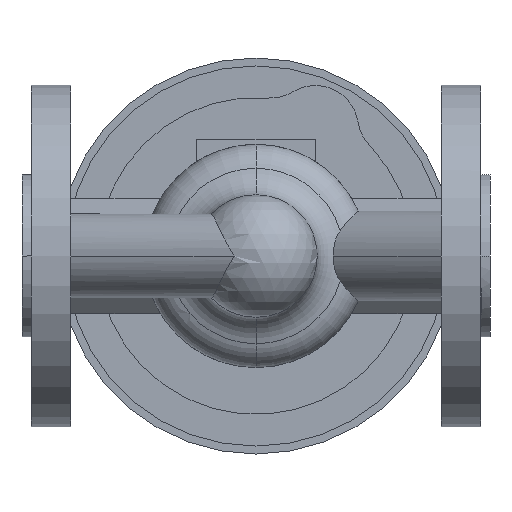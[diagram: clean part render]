
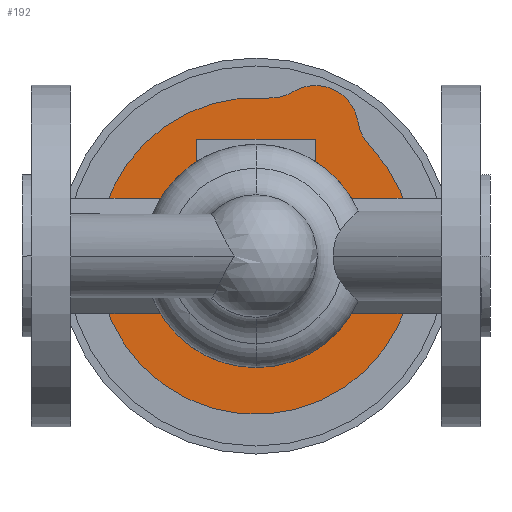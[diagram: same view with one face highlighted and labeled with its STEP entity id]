
A CAD part, front view. The second image highlights one B-rep face of the part: STEP entity #192.
In plain terms, the highlighted planar face has unit normal (0, -1, 0).
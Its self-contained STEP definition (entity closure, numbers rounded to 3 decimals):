
#192 = ADVANCED_FACE( '', ( #501, #502 ), #503, .F. );
#501 = FACE_OUTER_BOUND( '', #879, .T. );
#502 = FACE_BOUND( '', #880, .T. );
#503 = PLANE( '', #881 );
#879 = EDGE_LOOP( '', ( #2006, #2007, #2008, #2009, #2010 ) );
#880 = EDGE_LOOP( '', ( #2011, #2012 ) );
#881 = AXIS2_PLACEMENT_3D( '', #2013, #2014, #2015 );
#2006 = ORIENTED_EDGE( '', *, *, #2527, .F. );
#2007 = ORIENTED_EDGE( '', *, *, #2799, .F. );
#2008 = ORIENTED_EDGE( '', *, *, #2800, .F. );
#2009 = ORIENTED_EDGE( '', *, *, #2801, .F. );
#2010 = ORIENTED_EDGE( '', *, *, #2802, .F. );
#2011 = ORIENTED_EDGE( '', *, *, #2519, .T. );
#2012 = ORIENTED_EDGE( '', *, *, #2803, .T. );
#2013 = CARTESIAN_POINT( '', ( 0., 106.4, 0. ) );
#2014 = DIRECTION( '', ( 0., 1., 0. ) );
#2015 = DIRECTION( '', ( 0., 0., 1. ) );
#2519 = EDGE_CURVE( '', #3064, #3068, #3070, .T. );
#2527 = EDGE_CURVE( '', #3084, #3080, #3086, .T. );
#2799 = EDGE_CURVE( '', #3528, #3084, #3529, .T. );
#2800 = EDGE_CURVE( '', #3530, #3528, #3531, .T. );
#2801 = EDGE_CURVE( '', #3532, #3530, #3533, .T. );
#2802 = EDGE_CURVE( '', #3080, #3532, #3534, .T. );
#2803 = EDGE_CURVE( '', #3068, #3064, #3535, .T. );
#3064 = VERTEX_POINT( '', #3956 );
#3068 = VERTEX_POINT( '', #3961 );
#3070 = CIRCLE( '', #3964, 30.033 );
#3080 = VERTEX_POINT( '', #3976 );
#3084 = VERTEX_POINT( '', #3981 );
#3086 = CIRCLE( '', #3984, 44. );
#3528 = VERTEX_POINT( '', #5269 );
#3529 = CIRCLE( '', #5270, 12. );
#3530 = VERTEX_POINT( '', #5271 );
#3531 = CIRCLE( '', #5272, 12. );
#3532 = VERTEX_POINT( '', #5273 );
#3533 = CIRCLE( '', #5274, 12. );
#3534 = CIRCLE( '', #5275, 44. );
#3535 = CIRCLE( '', #5276, 30.033 );
#3956 = CARTESIAN_POINT( '', ( 95.033, 106.4, 0. ) );
#3961 = CARTESIAN_POINT( '', ( 34.967, 106.4, 0. ) );
#3964 = AXIS2_PLACEMENT_3D( '', #5633, #5634, #5635 );
#3976 = CARTESIAN_POINT( '', ( 33.41, 106.4, -30.628 ) );
#3981 = CARTESIAN_POINT( '', ( 96.59, 106.4, 30.628 ) );
#3984 = AXIS2_PLACEMENT_3D( '', #5649, #5650, #5651 );
#5269 = CARTESIAN_POINT( '', ( 93.344, 106.4, 37.164 ) );
#5270 = AXIS2_PLACEMENT_3D( '', #6167, #6168, #6169 );
#5271 = CARTESIAN_POINT( '', ( 75.25, 106.4, 45.601 ) );
#5272 = AXIS2_PLACEMENT_3D( '', #6170, #6171, #6172 );
#5273 = CARTESIAN_POINT( '', ( 68.157, 106.4, 43.887 ) );
#5274 = AXIS2_PLACEMENT_3D( '', #6173, #6174, #6175 );
#5275 = AXIS2_PLACEMENT_3D( '', #6176, #6177, #6178 );
#5276 = AXIS2_PLACEMENT_3D( '', #6179, #6180, #6181 );
#5633 = CARTESIAN_POINT( '', ( 65., 106.4, 0. ) );
#5634 = DIRECTION( '', ( 0., 1., 0. ) );
#5635 = DIRECTION( '', ( 1., 0., 0. ) );
#5649 = CARTESIAN_POINT( '', ( 65., 106.4, 0. ) );
#5650 = DIRECTION( '', ( 0., 1., 0. ) );
#5651 = DIRECTION( '', ( 0.718, 0., 0.696 ) );
#6167 = CARTESIAN_POINT( '', ( 105.205, 106.4, 38.981 ) );
#6168 = DIRECTION( '', ( 0., -1., 0. ) );
#6169 = DIRECTION( '', ( -0.988, 0., -0.151 ) );
#6170 = CARTESIAN_POINT( '', ( 81.482, 106.4, 35.346 ) );
#6171 = DIRECTION( '', ( 0., 1., 0. ) );
#6172 = DIRECTION( '', ( -0.519, 0., 0.855 ) );
#6173 = CARTESIAN_POINT( '', ( 69.018, 106.4, 55.856 ) );
#6174 = DIRECTION( '', ( 0., -1., 0. ) );
#6175 = DIRECTION( '', ( -0.072, 0., -0.997 ) );
#6176 = CARTESIAN_POINT( '', ( 65., 106.4, 0. ) );
#6177 = DIRECTION( '', ( 0., 1., 0. ) );
#6178 = DIRECTION( '', ( 0.718, 0., 0.696 ) );
#6179 = CARTESIAN_POINT( '', ( 65., 106.4, 0. ) );
#6180 = DIRECTION( '', ( 0., 1., 0. ) );
#6181 = DIRECTION( '', ( 1., 0., 0. ) );
